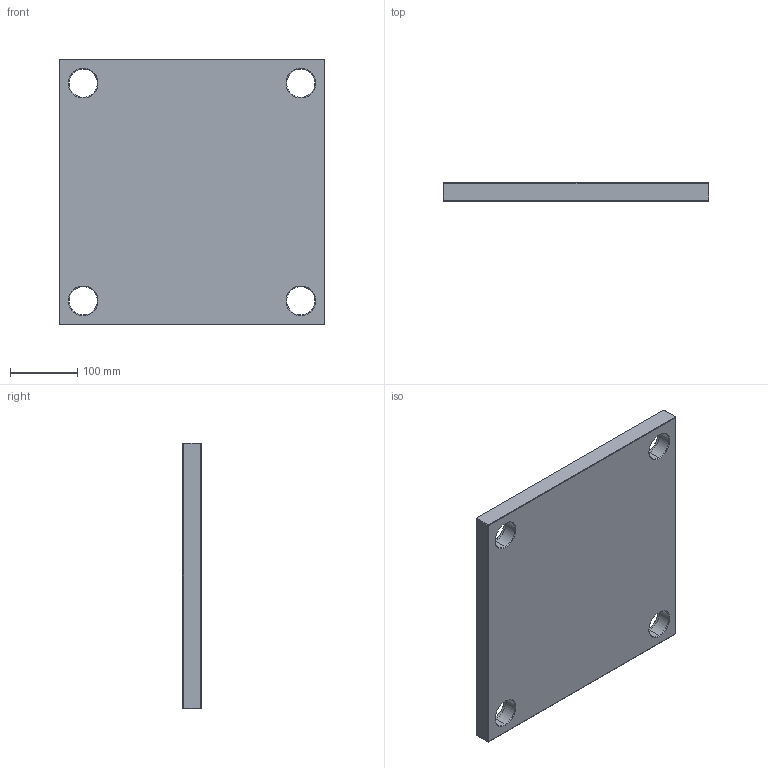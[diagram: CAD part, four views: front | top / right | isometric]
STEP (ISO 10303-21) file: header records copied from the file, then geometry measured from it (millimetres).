
FILE_DESCRIPTION (( 'STEP AP214' ), '1' );
FILE_NAME ('PC-396x396x27.STEP', '2020-04-21T17:13:28', ( 'August' ), ( '' ), 'SwSTEP 2.0', 'SolidWorks 2018', '' );
FILE_SCHEMA (( 'AUTOMOTIVE_DESIGN' ));
Length unit declared in the file: millimetre
Products named in the file (1): PC-396x396x27
Bounding box: 396 x 27 x 396 mm (x, y, z)
Volume: 4053711.8 mm3; surface area: 361778.4 mm2
Topology: 1 solids, 1 shells, 82 faces, 168 edges, 96 vertices
Faces by surface type: plane 34, cone 24, cylinder 24
Entity records: 2170 total; most frequent: DIRECTION 406, CARTESIAN_POINT 347, ORIENTED_EDGE 336, EDGE_CURVE 168, AXIS2_PLACEMENT_3D 155, EDGE_LOOP 98, VERTEX_POINT 96, VECTOR 96
